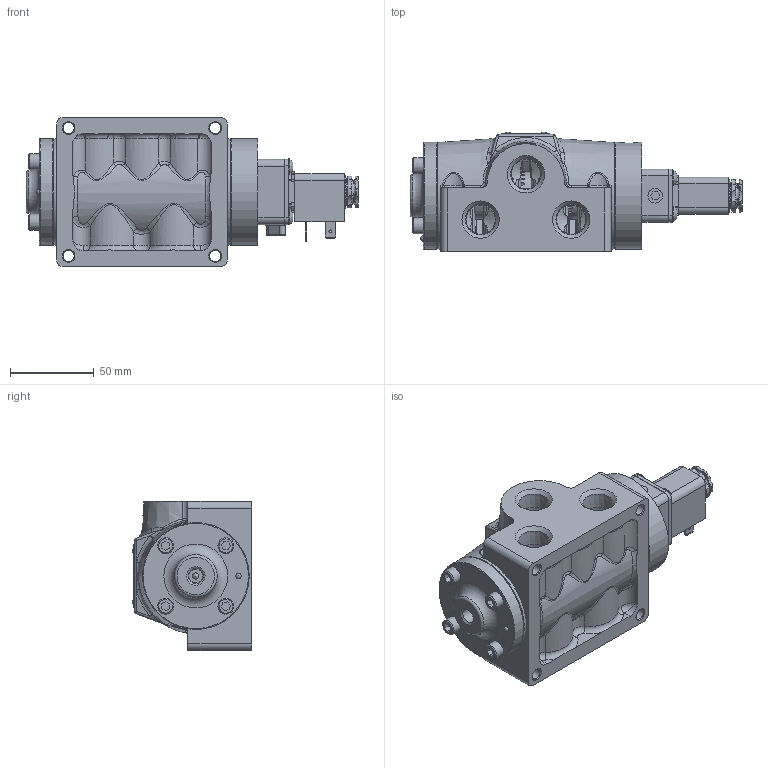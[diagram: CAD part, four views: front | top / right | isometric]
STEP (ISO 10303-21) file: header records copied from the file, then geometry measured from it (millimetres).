
FILE_DESCRIPTION(/* description */ (''),/* implementation_level */ '2;1');
FILE_NAME(/* name */ 'ESR4OCZ.stp',/* time_stamp */ '2026-09-23T16:13:26-04:00',/* author */ ('rmckenna'),/* organization */ (''),/* preprocessor_version */ 'ST-DEVELOPER v20.2',/* originating_system */ 'Autodesk Inventor 2027',/* authorisation */ '');
FILE_SCHEMA (('AUTOMOTIVE_DESIGN { 1 0 10303 214 3 1 1 }'));
Products named in the file (1): Part6
Bounding box: 197.71 x 71.2 x 88.9 mm (x, y, z)
Volume: 523898.7 mm3; surface area: 132884.5 mm2
Topology: 1 solids, 34 shells, 2315 faces, 5728 edges, 3540 vertices
Faces by surface type: plane 835, cylinder 594, bspline 363, cone 334, torus 166, sphere 23
Full cylindrical faces by diameter (mm): 1.168 x10, 1.3 x1, 1.397 x1, 1.5 x1, 1.651 x3, 2.032 x4, 2.07 x2, 2.261 x2, 2.35 x4, 2.388 x1, 2.464 x1, 2.5 x1, 2.778 x2, 2.8 x1, 3 x4, 3.048 x5, 3.175 x2, 3.4 x1, 3.683 x5, 3.962 x2, 4.191 x2, 4.826 x4, 4.978 x8, 5.15 x4, 5.156 x4, 5.5 x1, 5.556 x1, 6.35 x8, 6.629 x4, 6.65 x1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
Entity records: 85945 total; most frequent: CARTESIAN_POINT 30931, ORIENTED_EDGE 11358, DIRECTION 10182, EDGE_CURVE 5679, AXIS2_PLACEMENT_3D 3853, VERTEX_POINT 3539, EDGE_LOOP 2564, LINE 2476
